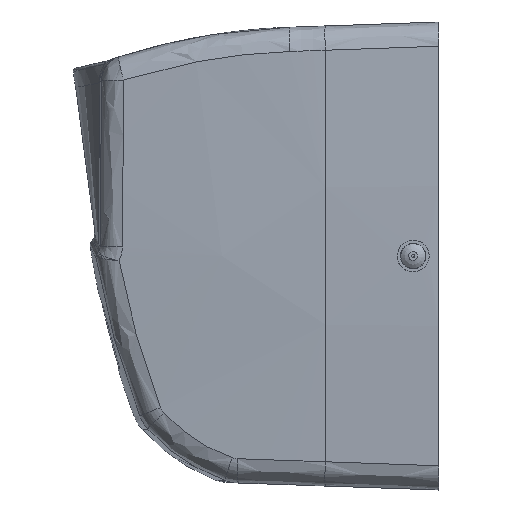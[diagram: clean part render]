
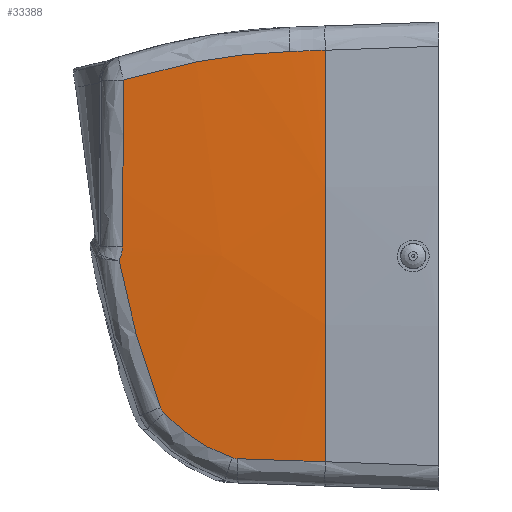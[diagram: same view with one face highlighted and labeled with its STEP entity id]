
A CAD part, left-side view. The second image highlights one B-rep face of the part: STEP entity #33388.
In plain terms, the highlighted free-form (B-spline) face has degree [2, 2] with [3, 3] control points.
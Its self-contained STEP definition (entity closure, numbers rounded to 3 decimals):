
#10176=CARTESIAN_POINT('',(-112.585,-192.733,148.091));
#10177=VERTEX_POINT('',#10176);
#17525=CARTESIAN_POINT('',(-114.019,-107.777,150.255));
#17526=VERTEX_POINT('',#17525);
#25516=CARTESIAN_POINT('',(-114.218,-114.247,148.72));
#25517=VERTEX_POINT('',#25516);
#25518=CARTESIAN_POINT('',(-114.019,-107.777,150.255));
#25519=CARTESIAN_POINT('',(-114.085,-108.778,149.76));
#25520=CARTESIAN_POINT('',(-114.136,-109.836,149.379));
#25521=CARTESIAN_POINT('',(-114.203,-112.012,148.864));
#25522=CARTESIAN_POINT('',(-114.22,-113.129,148.729));
#25523=CARTESIAN_POINT('',(-114.218,-114.247,148.72));
#25524=B_SPLINE_CURVE_WITH_KNOTS('',3,(#25518,#25519,#25520,#25521,#25522,#25523),.UNSPECIFIED.,.F.,.U.,(4,2,4),(0.0,0.5,1.0),.UNSPECIFIED.);
#25525=EDGE_CURVE('',#17526,#25517,#25524,.T.);
#25565=CARTESIAN_POINT('',(1874.987,-112.167,155.28));
#25566=DIRECTION('',(-0.003,-0.008,1.));
#25567=DIRECTION('',(-0.999,-0.041,-0.004));
#25568=AXIS2_PLACEMENT_3D('',#25565,#25566,#25567);
#25569=CIRCLE('',#25568,1989.217);
#25570=EDGE_CURVE('',#25517,#10177,#25569,.T.);
#25614=CARTESIAN_POINT('',(-119.091,-206.14,70.202));
#25615=VERTEX_POINT('',#25614);
#25616=CARTESIAN_POINT('',(-112.585,-192.733,148.091));
#25617=CARTESIAN_POINT('',(-113.089,-194.087,143.808));
#25618=CARTESIAN_POINT('',(-113.572,-195.343,139.492));
#25619=CARTESIAN_POINT('',(-114.033,-196.5,135.146));
#25620=CARTESIAN_POINT('',(-114.924,-198.735,126.745));
#25621=CARTESIAN_POINT('',(-115.732,-200.597,118.236));
#25622=CARTESIAN_POINT('',(-116.451,-202.075,109.654));
#25623=CARTESIAN_POINT('',(-116.498,-202.172,109.093));
#25624=CARTESIAN_POINT('',(-116.544,-202.267,108.533));
#25625=CARTESIAN_POINT('',(-116.591,-202.36,107.972));
#25626=CARTESIAN_POINT('',(-117.342,-203.878,98.846));
#25627=CARTESIAN_POINT('',(-117.991,-204.963,89.639));
#25628=CARTESIAN_POINT('',(-118.535,-205.607,80.395));
#25629=CARTESIAN_POINT('',(-118.735,-205.844,77.001));
#25630=CARTESIAN_POINT('',(-118.92,-206.022,73.603));
#25631=CARTESIAN_POINT('',(-119.091,-206.14,70.202));
#25632=B_SPLINE_CURVE_WITH_KNOTS('',3,(#25616,#25617,#25618,#25619,#25620,#25621,#25622,#25623,#25624,#25625,#25626,#25627,#25628,#25629,#25630,#25631),.UNSPECIFIED.,.F.,.U.,(4,3,3,3,3,4),(0.0,0.17,0.5,0.522,0.872,1.0),.UNSPECIFIED.);
#25633=EDGE_CURVE('',#10177,#25615,#25632,.T.);
#25699=CARTESIAN_POINT('',(-115.23,-36.212,129.17));
#25700=VERTEX_POINT('',#25699);
#25701=CARTESIAN_POINT('',(-115.145,-38.756,130.753));
#25702=VERTEX_POINT('',#25701);
#25703=CARTESIAN_POINT('',(-115.23,-36.212,129.17));
#25704=CARTESIAN_POINT('',(-115.215,-36.437,129.377));
#25705=CARTESIAN_POINT('',(-115.202,-36.673,129.572));
#25706=CARTESIAN_POINT('',(-115.191,-36.92,129.752));
#25707=CARTESIAN_POINT('',(-115.176,-37.236,129.982));
#25708=CARTESIAN_POINT('',(-115.165,-37.567,130.188));
#25709=CARTESIAN_POINT('',(-115.157,-37.912,130.369));
#25710=CARTESIAN_POINT('',(-115.151,-38.186,130.513));
#25711=CARTESIAN_POINT('',(-115.147,-38.468,130.641));
#25712=CARTESIAN_POINT('',(-115.145,-38.756,130.753));
#25713=B_SPLINE_CURVE_WITH_KNOTS('',3,(#25703,#25704,#25705,#25706,#25707,#25708,#25709,#25710,#25711,#25712),.UNSPECIFIED.,.F.,.U.,(4,3,3,4),(0.0,0.304,0.692,1.0),.UNSPECIFIED.);
#25714=EDGE_CURVE('',#25700,#25702,#25713,.T.);
#25783=CARTESIAN_POINT('',(-115.145,-38.756,130.753));
#25784=CARTESIAN_POINT('',(-115.088,-46.002,133.544));
#25785=CARTESIAN_POINT('',(-115.008,-53.33,136.118));
#25786=CARTESIAN_POINT('',(-114.906,-60.728,138.471));
#25787=CARTESIAN_POINT('',(-114.765,-70.997,141.736));
#25788=CARTESIAN_POINT('',(-114.584,-81.401,144.574));
#25789=CARTESIAN_POINT('',(-114.368,-91.904,146.975));
#25790=CARTESIAN_POINT('',(-114.26,-97.172,148.179));
#25791=CARTESIAN_POINT('',(-114.143,-102.464,149.273));
#25792=CARTESIAN_POINT('',(-114.019,-107.777,150.255));
#25793=B_SPLINE_CURVE_WITH_KNOTS('',3,(#25783,#25784,#25785,#25786,#25787,#25788,#25789,#25790,#25791,#25792),.UNSPECIFIED.,.F.,.U.,(4,3,3,4),(0.0,0.324,0.774,1.0),.UNSPECIFIED.);
#25794=EDGE_CURVE('',#25702,#17526,#25793,.T.);
#25840=CARTESIAN_POINT('',(-117.389,-15.171,97.155));
#25841=VERTEX_POINT('',#25840);
#25842=CARTESIAN_POINT('',(-117.389,-15.171,97.155));
#25843=CARTESIAN_POINT('',(-117.206,-16.199,100.091));
#25844=CARTESIAN_POINT('',(-116.824,-18.687,106.05));
#25845=CARTESIAN_POINT('',(-116.255,-23.527,114.552));
#25846=CARTESIAN_POINT('',(-115.711,-29.418,122.39));
#25847=CARTESIAN_POINT('',(-115.381,-33.909,127.05));
#25848=CARTESIAN_POINT('',(-115.23,-36.212,129.17));
#25849=B_SPLINE_CURVE_WITH_KNOTS('',3,(#25842,#25843,#25844,#25845,#25846,#25847,#25848),.UNSPECIFIED.,.F.,.U.,(4,1,1,1,4),(0.0,0.241,0.499,0.757,1.0),.UNSPECIFIED.);
#25850=EDGE_CURVE('',#25841,#25700,#25849,.T.);
#27467=CARTESIAN_POINT('',(-119.795,-206.726,53.329));
#27468=VERTEX_POINT('',#27467);
#27469=CARTESIAN_POINT('',(878.948,-207.888,20.133));
#27470=DIRECTION('',(0.,-0.999,0.035));
#27471=DIRECTION('',(-0.999,0.001,0.033));
#27472=AXIS2_PLACEMENT_3D('',#27469,#27470,#27471);
#27473=CIRCLE('',#27472,999.295);
#27474=EDGE_CURVE('',#25615,#27468,#27473,.T.);
#33337=CARTESIAN_POINT('',(-119.778,-12.924,53.329));
#33338=CARTESIAN_POINT('',(-118.081,-13.007,101.99));
#33339=CARTESIAN_POINT('',(-111.67,-13.319,150.256));
#33340=CARTESIAN_POINT('',(-124.5,-110.,53.329));
#33341=CARTESIAN_POINT('',(-122.799,-110.,101.99));
#33342=CARTESIAN_POINT('',(-116.372,-110.,150.256));
#33343=CARTESIAN_POINT('',(-119.778,-207.076,53.329));
#33344=CARTESIAN_POINT('',(-118.081,-206.993,101.99));
#33345=CARTESIAN_POINT('',(-111.67,-206.681,150.256));
#33353=(BOUNDED_SURFACE()B_SPLINE_SURFACE(2,2,((#33337,#33340,#33343),(#33338,#33341,#33344),(#33339,#33342,#33345)),.UNSPECIFIED.,.F.,.F.,.U.)B_SPLINE_SURFACE_WITH_KNOTS((3,3),(3,3),(0.035,0.132),(0.0,0.097),.UNSPECIFIED.)GEOMETRIC_REPRESENTATION_ITEM()RATIONAL_B_SPLINE_SURFACE(((1.0,0.999,1.0),(0.999,0.998,0.999),(1.0,0.999,1.0)))REPRESENTATION_ITEM('')SURFACE());
#33354=ORIENTED_EDGE('',*,*,#25714,.F.);
#33355=ORIENTED_EDGE('',*,*,#25850,.F.);
#33356=CARTESIAN_POINT('',(-117.558,-14.711,94.705));
#33357=VERTEX_POINT('',#33356);
#33358=CARTESIAN_POINT('',(-117.92,-23.098,94.313));
#33359=DIRECTION('',(0.996,-0.04,-0.076));
#33360=DIRECTION('',(0.081,0.727,0.682));
#33361=AXIS2_PLACEMENT_3D('',#33358,#33359,#33360);
#33362=ELLIPSE('',#33361,8.459,8.33);
#33363=EDGE_CURVE('',#33357,#25841,#33362,.T.);
#33364=ORIENTED_EDGE('',*,*,#33363,.F.);
#33365=CARTESIAN_POINT('',(-119.795,-13.274,53.329));
#33366=VERTEX_POINT('',#33365);
#33367=CARTESIAN_POINT('',(878.933,-12.398,20.124));
#33368=DIRECTION('',(0.,0.999,0.035));
#33369=DIRECTION('',(-0.997,-0.002,0.075));
#33370=AXIS2_PLACEMENT_3D('',#33367,#33368,#33369);
#33371=CIRCLE('',#33370,999.281);
#33372=EDGE_CURVE('',#33366,#33357,#33371,.T.);
#33373=ORIENTED_EDGE('',*,*,#33372,.F.);
#33374=CARTESIAN_POINT('',(1876.,-110.0,53.329));
#33375=DIRECTION('',(0.0,0.0,1.0));
#33376=DIRECTION('',(0.998,-0.055,0.0));
#33377=AXIS2_PLACEMENT_3D('',#33374,#33375,#33376);
#33378=CIRCLE('',#33377,1998.138);
#33379=EDGE_CURVE('',#33366,#27468,#33378,.T.);
#33380=ORIENTED_EDGE('',*,*,#33379,.T.);
#33381=ORIENTED_EDGE('',*,*,#27474,.F.);
#33382=ORIENTED_EDGE('',*,*,#25633,.F.);
#33383=ORIENTED_EDGE('',*,*,#25570,.F.);
#33384=ORIENTED_EDGE('',*,*,#25525,.F.);
#33385=ORIENTED_EDGE('',*,*,#25794,.F.);
#33386=EDGE_LOOP('',(#33354,#33355,#33364,#33373,#33380,#33381,#33382,#33383,#33384,#33385));
#33387=FACE_OUTER_BOUND('',#33386,.T.);
#33388=ADVANCED_FACE('',(#33387),#33353,.F.);
